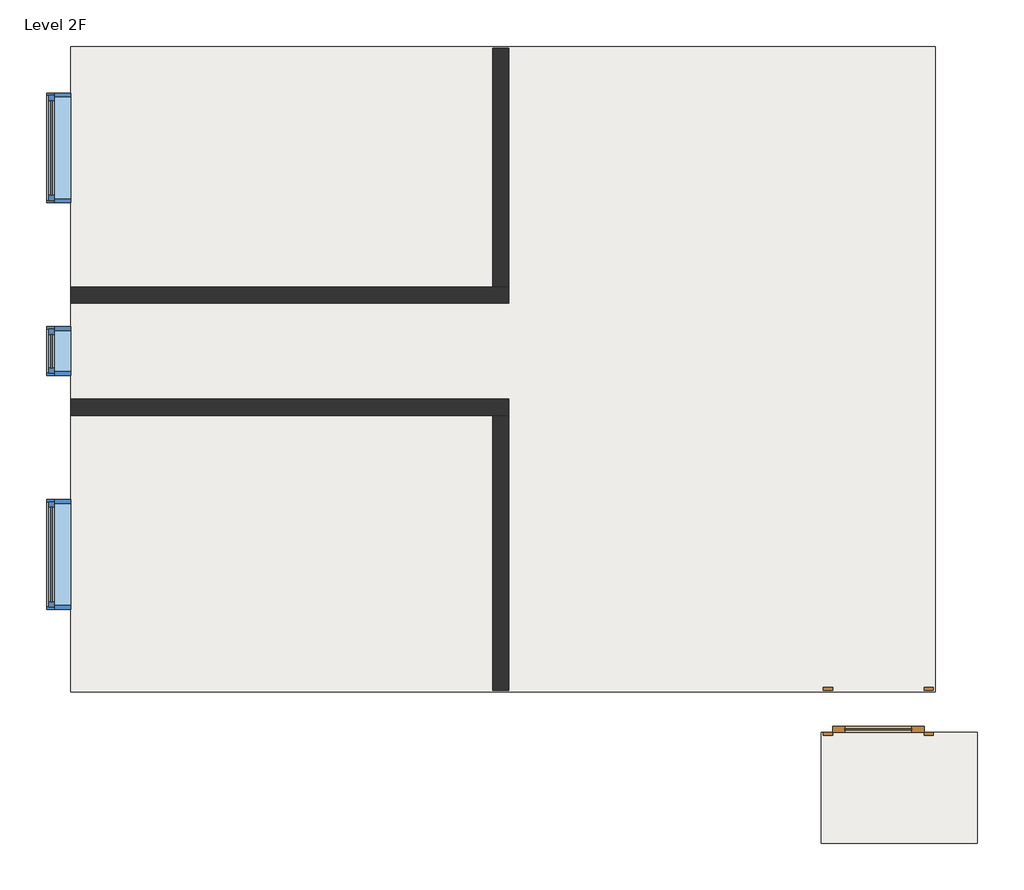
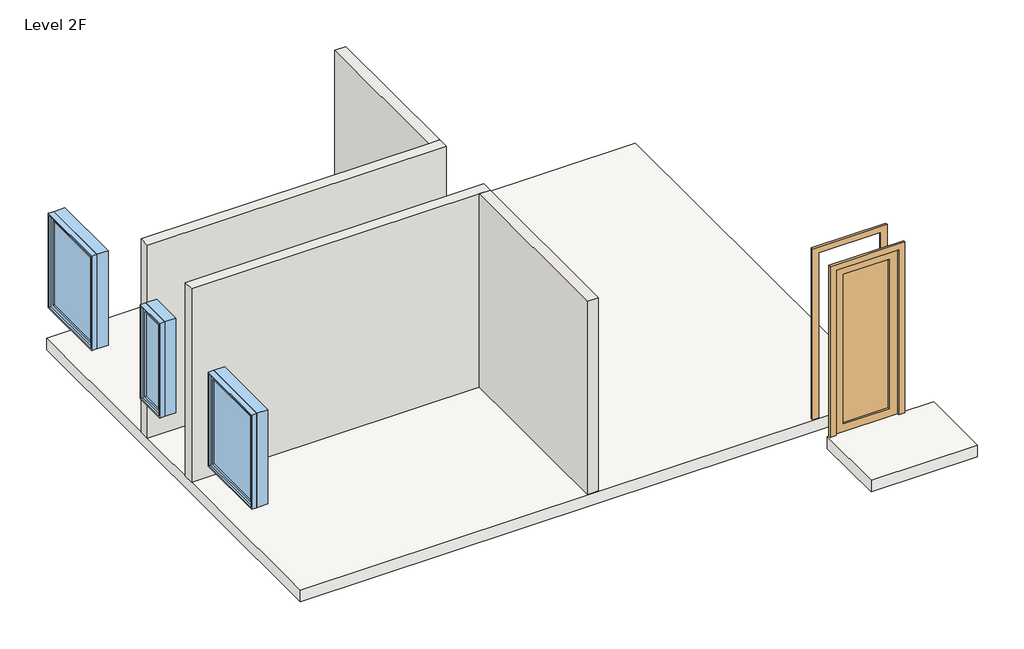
# One storey: 4 walls, 3 windows, 2 slabs, 1 door.
"""IFC4 building model written with IfcOpenShell, lengths in millimetres."""

from ifc_helpers import new_model, si_unit, frame, origin, place, context, project, spatial, polyline, outline, extrude, faceted_brep, transform, mapped, element, save
from components import m_single_glass_1_0762_x_2134mm_tn1_d435eb3c, m_fixed_0406_x_1220mm_71a1fb2c, m_fixed_0915_x_1220mm_488fb2fb

model = new_model("IFC4")

# Units and contexts
model_context = context("Model", 3, world=origin())
ifc_project = project(units=[si_unit("LENGTHUNIT", "METRE", prefix="MILLI")], contexts=[model_context])

# Site, building, storey
site = spatial("IfcSite", under=ifc_project)
building = spatial("IfcBuilding", under=site)
storey = spatial("IfcBuildingStorey", under=building, Name="Level 2F", Elevation=2600.0)

# Door
placement = place(None, origin())
m_single_glass_1_0762_x_2134mm_tn1_shape = m_single_glass_1_0762_x_2134mm_tn1_d435eb3c(model_context)
element("IfcDoor", 1, ObjectType="M_Single-Glass 1 : 0762 x 2134mm tn1", at=placement, inside=storey, context=model_context, shape_type="MappedRepresentation", body=[
    mapped(m_single_glass_1_0762_x_2134mm_tn1_shape, transform((-748.7239276, -12846.8966791, 2600.0), x_axis=(-1.0, 0.0, 0.0), y_axis=(0.0, -1.0, 0.0), z_axis=(0.0, 0.0, 1.0))),
])

# Slabs
element("IfcSlab", 2, ObjectType="Generic 150mm", at=placement, inside=storey, context=model_context, shape_type="SweptSolid", body=[
    extrude(outline(polyline([(-273.7239276, -7308.8966791), (-273.7239276, -12684.8966791), (-7473.7239276, -12684.8966791), (-7473.7239276, -7308.8966791), (-273.7239276, -7308.8966791)])), frame((0.0, 0.0, 2450.0), z_axis=(0.0, 0.0, 1.0), x_axis=(1.0, 0.0, 0.0)), (0.0, 0.0, 1.0), 150.0),
])
element("IfcSlab", 3, ObjectType="Generic 150mm", at=placement, inside=storey, context=model_context, shape_type="SweptSolid", body=[
    extrude(outline(polyline([(-1223.7239276, -13946.8966791), (-1223.7239276, -13021.8966791), (76.2760724, -13021.8966791), (76.2760724, -13946.8966791), (-1223.7239276, -13946.8966791)])), frame((0.0, 0.0, 2450.0), z_axis=(0.0, 0.0, 1.0), x_axis=(1.0, 0.0, 0.0)), (0.0, 0.0, 1.0), 150.0),
])

# Walls
element("IfcWall", 4, ObjectType="Interior - 135mm Partition (2-hr)", at=placement, inside=storey, context=model_context, shape_type="Brep", body=[
    faceted_brep([(-7473.7239276, -10382.3966791, 2600.0), (-3959.2239276, -10382.3966791, 2600.0), (-3823.7239276, -10382.3966791, 2600.0), (-3823.7239276, -10382.3966791, 5100.0), (-3959.2239276, -10382.3966791, 5100.0), (-7473.7239276, -10382.3966791, 5100.0), (-7473.7239276, -10246.8966791, 2600.0), (-7473.7239276, -10246.8966791, 5100.0), (-3823.7239276, -10246.8966791, 5100.0), (-3823.7239276, -10246.8966791, 2600.0)], [[[0, 1, 2, 3, 4, 5]], [[6, 7, 8, 9]], [[2, 1, 0, 6, 9]], [[5, 4, 3, 8, 7]], [[0, 5, 7, 6]], [[3, 2, 9, 8]]]),
])
element("IfcWall", 5, ObjectType="Interior - 135mm Partition (2-hr)", at=placement, inside=storey, context=model_context, shape_type="SweptSolid", body=[
    extrude(outline(polyline([(-3959.2239276, -12671.8966791), (-3959.2239276, -10382.3966791), (-3823.7239276, -10382.3966791), (-3823.7239276, -12671.8966791), (-3959.2239276, -12671.8966791)])), frame((0.0, 0.0, 2600.0), z_axis=(0.0, 0.0, 1.0), x_axis=(1.0, 0.0, 0.0)), (0.0, 0.0, 1.0), 2500.0),
])
element("IfcWall", 6, ObjectType="Interior - 135mm Partition (2-hr)", at=placement, inside=storey, context=model_context, shape_type="Brep", body=[
    faceted_brep([(-7473.7239276, -9446.8966791, 2600.0), (-3823.7239276, -9446.8966791, 2600.0), (-3823.7239276, -9446.8966791, 5100.0), (-7473.7239276, -9446.8966791, 5100.0), (-7473.7239276, -9311.3966791, 2600.0), (-7473.7239276, -9311.3966791, 5100.0), (-3959.2239276, -9311.3966791, 5100.0), (-3823.7239276, -9311.3966791, 5100.0), (-3823.7239276, -9311.3966791, 2600.0), (-3959.2239276, -9311.3966791, 2600.0)], [[[0, 1, 2, 3]], [[4, 5, 6, 7, 8, 9]], [[1, 0, 4, 9, 8]], [[3, 2, 7, 6, 5]], [[0, 3, 5, 4]], [[2, 1, 8, 7]]]),
])
element("IfcWall", 7, ObjectType="Interior - 135mm Partition (2-hr)", at=placement, inside=storey, context=model_context, shape_type="SweptSolid", body=[
    extrude(outline(polyline([(-3823.7239276, -7321.8966791), (-3823.7239276, -9311.3966791), (-3959.2239276, -9311.3966791), (-3959.2239276, -7321.8966791), (-3823.7239276, -7321.8966791)])), frame((0.0, 0.0, 2600.0), z_axis=(0.0, 0.0, 1.0), x_axis=(1.0, 0.0, 0.0)), (0.0, 0.0, 1.0), 2500.0),
])

# Windows
m_fixed_0406_x_1220mm_shape = m_fixed_0406_x_1220mm_71a1fb2c(model_context)
element("IfcWindow", 8, ObjectType="M_Fixed : 0406 x 1220mm", at=placement, inside=storey, context=model_context, shape_type="MappedRepresentation", body=[
    mapped(m_fixed_0406_x_1220mm_shape, transform((-7560.7239276, -9846.8966791, 2385.0), x_axis=(0.0, 1.0, 0.0), y_axis=(-1.0, 0.0, 0.0), z_axis=(0.0, 0.0, 1.0))),
])
m_fixed_0915_x_1220mm_shape = m_fixed_0915_x_1220mm_488fb2fb(model_context)
element("IfcWindow", 9, ObjectType="M_Fixed : 0915 x 1220mm", at=placement, inside=storey, context=model_context, shape_type="MappedRepresentation", body=[
    mapped(m_fixed_0915_x_1220mm_shape, transform((-7560.7239276, -11539.8966791, 2385.0), x_axis=(0.0, 1.0, 0.0), y_axis=(-1.0, 0.0, 0.0), z_axis=(0.0, 0.0, 1.0))),
])
element("IfcWindow", 10, ObjectType="M_Fixed : 0915 x 1220mm", at=placement, inside=storey, context=model_context, shape_type="MappedRepresentation", body=[
    mapped(m_fixed_0915_x_1220mm_shape, transform((-7560.7239276, -8153.8966791, 2385.0), x_axis=(0.0, 1.0, 0.0), y_axis=(-1.0, 0.0, 0.0), z_axis=(0.0, 0.0, 1.0))),
])

save(model, "model.ifc")
